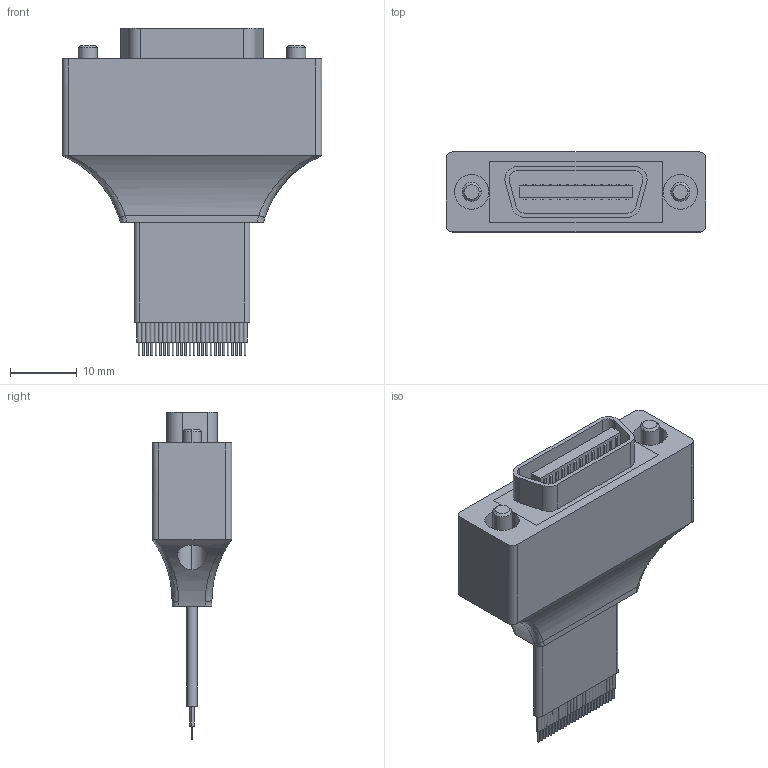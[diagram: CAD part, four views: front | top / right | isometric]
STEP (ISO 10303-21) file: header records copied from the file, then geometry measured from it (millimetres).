
FILE_DESCRIPTION (( 'STEP AP214' ), '1' );
FILE_NAME ('ICL-6.STEP', '2023-06-21T16:30:46', ( '' ), ( '' ), 'SwSTEP 2.0', 'SolidWorks 2021', '' );
FILE_SCHEMA (( 'AUTOMOTIVE_DESIGN' ));
Length unit declared in the file: millimetre
Products named in the file (5): ICL Cable_90201_26; ICL-6-Screw; ICL-6-Mold; 10126-6000EC; ICL-6
Assembly tree (5 placements, depth 2):
  ICL-6
    10126-6000EC
    ICL-6-Mold
    ICL-6-Screw  x2
    ICL Cable_90201_26
Bounding box: 39 x 12 x 49.07 mm (x, y, z)
Volume: 9192.4 mm3; surface area: 6879.2 mm2
Topology: 57 solids, 57 shells, 462 faces, 999 edges, 660 vertices
Faces by surface type: plane 289, cylinder 149, cone 16, bspline 8
Entity records: 16803 total; most frequent: CARTESIAN_POINT 2611, DIRECTION 2079, ORIENTED_EDGE 1902, EDGE_CURVE 951, AXIS2_PLACEMENT_3D 727, VERTEX_POINT 630, VECTOR 625, LINE 625
